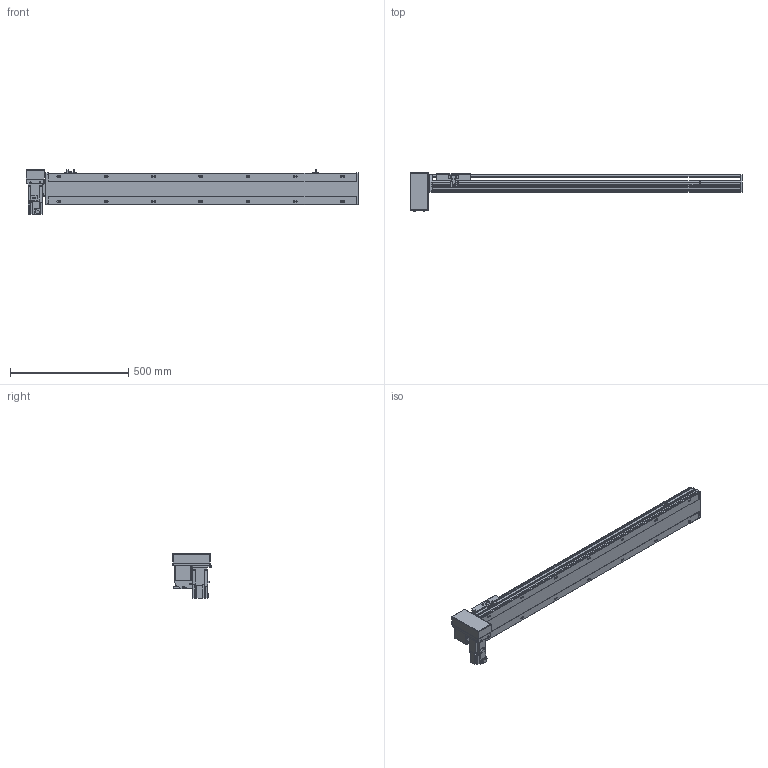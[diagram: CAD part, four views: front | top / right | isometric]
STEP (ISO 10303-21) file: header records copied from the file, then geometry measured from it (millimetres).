
FILE_DESCRIPTION( ( 'STEP AP214' ), '1' );
FILE_NAME( 'x:/temp/worker_3/temp/exporttempdir_5796_12_yV7JX/format_0/PBS140-P40-S1050-RD-T40-C1-N(0).stp', '2022-06-07T05:35:09', ( 'License CC BY-ND 4.0' ), ( 'CADENAS' ), ' ', 'PARTsolutions', ' ' );
FILE_SCHEMA( ( 'AUTOMOTIVE_DESIGN { 1 0 10303 214 1 1 1 1 }' ) );
Length unit declared in the file: millimetre
Products named in the file (7): PBS140-P40-S1050-RD-T40-C1-N(0); _PBS140-S1050()_body; _PBS140T-RD_motors; _T40-p1; _PBS140_sliser; _PBS140_plant; _PBS140_sensor
Assembly tree (8 placements, depth 2):
  PBS140-P40-S1050-RD-T40-C1-N(0)
    _PBS140-S1050()_body
    _PBS140T-RD_motors
    _T40-p1
    _PBS140_sliser
    _PBS140_plant
    _PBS140_sensor  x3
Bounding box: 1404 x 162 x 189.7 mm (x, y, z)
Volume: 6723971.7 mm3; surface area: 1173773.6 mm2
Topology: 8 solids, 8 shells, 1059 faces, 2796 edges, 1827 vertices
Faces by surface type: plane 686, cylinder 323, cone 40, sphere 8, torus 2
Full cylindrical faces by diameter (mm): 3.242 x4, 4 x2, 4.134 x4, 4.4 x8, 4.5 x2, 4.8 x4, 4.917 x22, 5.5 x7, 6 x2, 7 x16, 7.5 x8, 8 x12, 8.5 x4, 10.5 x14, 14 x1, 30 x2, 50 x2
Entity records: 38647 total; most frequent: CARTESIAN_POINT 6083, DIRECTION 5127, ORIENTED_EDGE 4852, EDGE_CURVE 2426, AXIS2_PLACEMENT_3D 1777, VERTEX_POINT 1677, LINE 1573, VECTOR 1573
